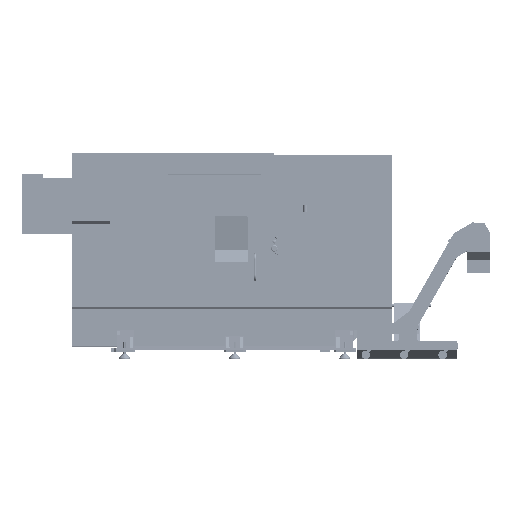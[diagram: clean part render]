
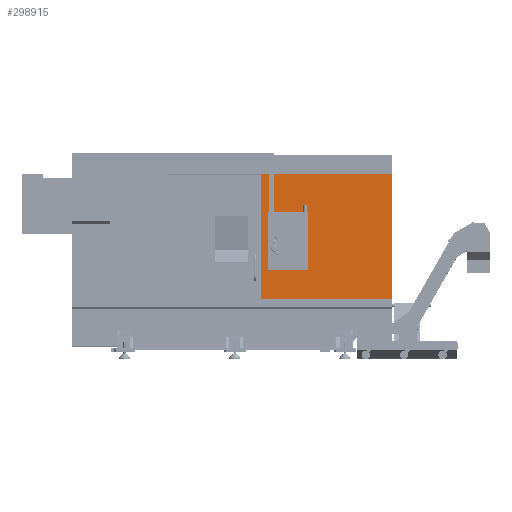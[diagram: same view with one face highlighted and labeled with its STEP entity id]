
A CAD part, top view. The second image highlights one B-rep face of the part: STEP entity #298915.
In plain terms, the highlighted planar face has unit normal (0, 0, 1).
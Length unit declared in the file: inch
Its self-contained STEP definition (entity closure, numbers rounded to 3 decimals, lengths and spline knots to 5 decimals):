
#49 = VECTOR ( 'NONE', #127587, 39.37008 ) ;
#7539 = VERTEX_POINT ( 'NONE', #41976 ) ;
#8412 = LINE ( 'NONE', #217759, #339635 ) ;
#13159 = DIRECTION ( 'NONE',  ( 1., 0., 0. ) ) ;
#17305 = CARTESIAN_POINT ( 'NONE',  ( 65.9624, 26.23896, 21.87425 ) ) ;
#18381 = ORIENTED_EDGE ( 'NONE', *, *, #31092, .F. ) ;
#20698 = CARTESIAN_POINT ( 'NONE',  ( 43.7722, 44.31642, 21.87425 ) ) ;
#23959 = VECTOR ( 'NONE', #217797, 39.37008 ) ;
#24762 = CARTESIAN_POINT ( 'NONE',  ( 104.0512, -14.41555, 21.87425 ) ) ;
#26452 = EDGE_CURVE ( 'NONE', #47084, #310926, #276081, .T. ) ;
#28329 = CARTESIAN_POINT ( 'NONE',  ( 104.0512, -17.24602, 21.87425 ) ) ;
#31092 = EDGE_CURVE ( 'NONE', #354751, #109843, #36635, .T. ) ;
#36635 = LINE ( 'NONE', #93150, #285063 ) ;
#38506 = LINE ( 'NONE', #135068, #102596 ) ;
#41976 = CARTESIAN_POINT ( 'NONE',  ( 47.2722, 26.23896, 21.87425 ) ) ;
#46577 = CARTESIAN_POINT ( 'NONE',  ( 43.7722, 43.29642, 21.87425 ) ) ;
#47084 = VERTEX_POINT ( 'NONE', #262078 ) ;
#47168 = ORIENTED_EDGE ( 'NONE', *, *, #105254, .F. ) ;
#53913 = DIRECTION ( 'NONE',  ( 1., 0., 0. ) ) ;
#56922 = DIRECTION ( 'NONE',  ( 0., -1., 0. ) ) ;
#60527 = LINE ( 'NONE', #28329, #153216 ) ;
#61557 = VERTEX_POINT ( 'NONE', #267413 ) ;
#69025 = VERTEX_POINT ( 'NONE', #197628 ) ;
#75371 = CARTESIAN_POINT ( 'NONE',  ( 104.0512, 44.31642, 21.87425 ) ) ;
#77001 = EDGE_CURVE ( 'NONE', #334893, #354751, #115195, .T. ) ;
#78356 = CARTESIAN_POINT ( 'NONE',  ( 49.8722, 44.31642, 21.87425 ) ) ;
#80578 = VECTOR ( 'NONE', #396210, 39.37008 ) ;
#83194 = DIRECTION ( 'NONE',  ( 0., 1., 0. ) ) ;
#85922 = VERTEX_POINT ( 'NONE', #316808 ) ;
#86108 = LINE ( 'NONE', #347636, #354710 ) ;
#87669 = ORIENTED_EDGE ( 'NONE', *, *, #294321, .F. ) ;
#88068 = VECTOR ( 'NONE', #158280, 39.37008 ) ;
#88185 = ORIENTED_EDGE ( 'NONE', *, *, #77001, .F. ) ;
#89479 = CARTESIAN_POINT ( 'NONE',  ( 104.0512, 44.31642, 21.87425 ) ) ;
#93150 = CARTESIAN_POINT ( 'NONE',  ( 43.7722, 44.31642, 21.87425 ) ) ;
#96229 = LINE ( 'NONE', #421969, #273285 ) ;
#102596 = VECTOR ( 'NONE', #325881, 39.37008 ) ;
#105254 = EDGE_CURVE ( 'NONE', #414849, #302516, #398804, .T. ) ;
#108221 = ORIENTED_EDGE ( 'NONE', *, *, #235698, .F. ) ;
#109843 = VERTEX_POINT ( 'NONE', #263295 ) ;
#111780 = LINE ( 'NONE', #17305, #233940 ) ;
#115195 = LINE ( 'NONE', #46577, #421814 ) ;
#127587 = DIRECTION ( 'NONE',  ( 0., -1., 0. ) ) ;
#129197 = EDGE_CURVE ( 'NONE', #414849, #188906, #96229, .T. ) ;
#135068 = CARTESIAN_POINT ( 'NONE',  ( 18.86594, 26.23896, 21.87425 ) ) ;
#143388 = EDGE_CURVE ( 'NONE', #7539, #109843, #272489, .T. ) ;
#150053 = CARTESIAN_POINT ( 'NONE',  ( 49.8722, 26.23896, 21.87425 ) ) ;
#153216 = VECTOR ( 'NONE', #291986, 39.37008 ) ;
#157712 = LINE ( 'NONE', #24762, #23959 ) ;
#158280 = DIRECTION ( 'NONE',  ( 0., -1., 0. ) ) ;
#160382 = LINE ( 'NONE', #316928, #88068 ) ;
#164678 = AXIS2_PLACEMENT_3D ( 'NONE', #75371, #339008, #13159 ) ;
#183152 = EDGE_CURVE ( 'NONE', #85922, #290048, #157712, .T. ) ;
#188906 = VERTEX_POINT ( 'NONE', #291447 ) ;
#197628 = CARTESIAN_POINT ( 'NONE',  ( 47.1624, -0.86084, 21.87425 ) ) ;
#199705 = ORIENTED_EDGE ( 'NONE', *, *, #298291, .F. ) ;
#206139 = DIRECTION ( 'NONE',  ( 0., 1., 0. ) ) ;
#207445 = EDGE_CURVE ( 'NONE', #284799, #69025, #8412, .T. ) ;
#208281 = PLANE ( 'NONE',  #164678 ) ;
#212915 = ORIENTED_EDGE ( 'NONE', *, *, #26452, .F. ) ;
#217759 = CARTESIAN_POINT ( 'NONE',  ( 47.1624, 26.23896, 21.87425 ) ) ;
#217797 = DIRECTION ( 'NONE',  ( -1., 0., 0. ) ) ;
#223926 = DIRECTION ( 'NONE',  ( 1., 0., 0. ) ) ;
#232481 = ORIENTED_EDGE ( 'NONE', *, *, #371171, .F. ) ;
#233940 = VECTOR ( 'NONE', #206139, 39.37008 ) ;
#235698 = EDGE_CURVE ( 'NONE', #302516, #47084, #86108, .T. ) ;
#235975 = CARTESIAN_POINT ( 'NONE',  ( 49.8722, 44.31642, 21.87425 ) ) ;
#236320 = VECTOR ( 'NONE', #296027, 39.37008 ) ;
#245181 = ORIENTED_EDGE ( 'NONE', *, *, #378883, .F. ) ;
#254525 = DIRECTION ( 'NONE',  ( 1., 0., 0. ) ) ;
#259169 = DIRECTION ( 'NONE',  ( 1., 0., 0. ) ) ;
#262078 = CARTESIAN_POINT ( 'NONE',  ( 104.0512, 44.31642, 21.87425 ) ) ;
#263295 = CARTESIAN_POINT ( 'NONE',  ( 47.2722, 44.31642, 21.87425 ) ) ;
#263421 = LINE ( 'NONE', #394086, #80578 ) ;
#263769 = CARTESIAN_POINT ( 'NONE',  ( 65.9624, -0.86084, 21.87425 ) ) ;
#267413 = CARTESIAN_POINT ( 'NONE',  ( 104.28483, -17.24602, 21.87425 ) ) ;
#268365 = FACE_OUTER_BOUND ( 'NONE', #398726, .T. ) ;
#270564 = ORIENTED_EDGE ( 'NONE', *, *, #183152, .F. ) ;
#272489 = LINE ( 'NONE', #376838, #396644 ) ;
#273285 = VECTOR ( 'NONE', #259169, 39.37008 ) ;
#276081 = LINE ( 'NONE', #89479, #341578 ) ;
#282845 = CARTESIAN_POINT ( 'NONE',  ( 47.1624, 26.23896, 21.87425 ) ) ;
#284799 = VERTEX_POINT ( 'NONE', #282845 ) ;
#285063 = VECTOR ( 'NONE', #223926, 39.37008 ) ;
#285174 = CARTESIAN_POINT ( 'NONE',  ( 43.7722, -17.24602, 21.87425 ) ) ;
#285694 = EDGE_CURVE ( 'NONE', #289352, #188906, #111780, .T. ) ;
#289352 = VERTEX_POINT ( 'NONE', #263769 ) ;
#290048 = VERTEX_POINT ( 'NONE', #420886 ) ;
#291447 = CARTESIAN_POINT ( 'NONE',  ( 65.9624, 26.23896, 21.87425 ) ) ;
#291986 = DIRECTION ( 'NONE',  ( -1., 0., 0. ) ) ;
#294321 = EDGE_CURVE ( 'NONE', #290048, #61557, #160382, .T. ) ;
#296027 = DIRECTION ( 'NONE',  ( 0., 1., 0. ) ) ;
#297560 = EDGE_CURVE ( 'NONE', #284799, #7539, #38506, .T. ) ;
#298291 = EDGE_CURVE ( 'NONE', #310926, #85922, #421164, .T. ) ;
#298915 = ADVANCED_FACE ( 'NONE', ( #268365 ), #208281, .T. ) ;
#302516 = VERTEX_POINT ( 'NONE', #78356 ) ;
#310926 = VERTEX_POINT ( 'NONE', #398170 ) ;
#316808 = CARTESIAN_POINT ( 'NONE',  ( 105.0712, -14.41555, 21.87425 ) ) ;
#316928 = CARTESIAN_POINT ( 'NONE',  ( 104.28483, 44.31642, 21.87425 ) ) ;
#325881 = DIRECTION ( 'NONE',  ( 1., 0., 0. ) ) ;
#333010 = ORIENTED_EDGE ( 'NONE', *, *, #143388, .T. ) ;
#334893 = VERTEX_POINT ( 'NONE', #285174 ) ;
#339008 = DIRECTION ( 'NONE',  ( 0., 0., 1. ) ) ;
#339099 = ORIENTED_EDGE ( 'NONE', *, *, #297560, .T. ) ;
#339635 = VECTOR ( 'NONE', #56922, 39.37008 ) ;
#341578 = VECTOR ( 'NONE', #254525, 39.37008 ) ;
#344530 = DIRECTION ( 'NONE',  ( 0., 1., 0. ) ) ;
#347636 = CARTESIAN_POINT ( 'NONE',  ( 43.7722, 44.31642, 21.87425 ) ) ;
#354710 = VECTOR ( 'NONE', #53913, 39.37008 ) ;
#354751 = VERTEX_POINT ( 'NONE', #20698 ) ;
#356912 = CARTESIAN_POINT ( 'NONE',  ( 105.0712, 44.31642, 21.87425 ) ) ;
#368177 = ORIENTED_EDGE ( 'NONE', *, *, #207445, .F. ) ;
#371171 = EDGE_CURVE ( 'NONE', #69025, #289352, #263421, .T. ) ;
#376838 = CARTESIAN_POINT ( 'NONE',  ( 47.2722, 44.31642, 21.87425 ) ) ;
#378883 = EDGE_CURVE ( 'NONE', #61557, #334893, #60527, .T. ) ;
#394086 = CARTESIAN_POINT ( 'NONE',  ( 18.86594, -0.86084, 21.87425 ) ) ;
#396210 = DIRECTION ( 'NONE',  ( 1., 0., 0. ) ) ;
#396644 = VECTOR ( 'NONE', #83194, 39.37008 ) ;
#398170 = CARTESIAN_POINT ( 'NONE',  ( 105.0712, 44.31642, 21.87425 ) ) ;
#398726 = EDGE_LOOP ( 'NONE', ( #270564, #199705, #212915, #108221, #47168, #412913, #421954, #232481, #368177, #339099, #333010, #18381, #88185, #245181, #87669 ) ) ;
#398804 = LINE ( 'NONE', #235975, #236320 ) ;
#412913 = ORIENTED_EDGE ( 'NONE', *, *, #129197, .T. ) ;
#414849 = VERTEX_POINT ( 'NONE', #150053 ) ;
#420886 = CARTESIAN_POINT ( 'NONE',  ( 104.28483, -14.41555, 21.87425 ) ) ;
#421164 = LINE ( 'NONE', #356912, #49 ) ;
#421814 = VECTOR ( 'NONE', #344530, 39.37008 ) ;
#421954 = ORIENTED_EDGE ( 'NONE', *, *, #285694, .F. ) ;
#421969 = CARTESIAN_POINT ( 'NONE',  ( 18.86594, 26.23896, 21.87425 ) ) ;
